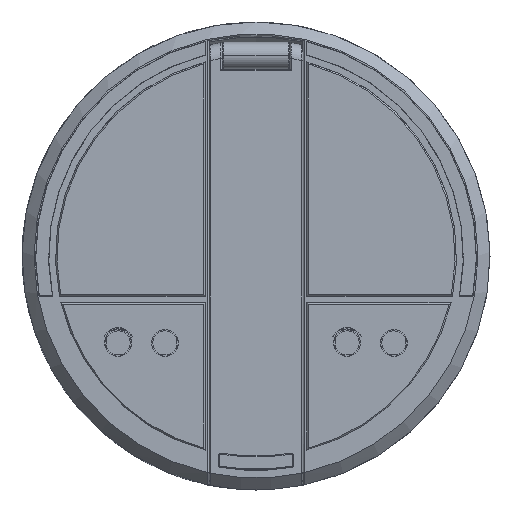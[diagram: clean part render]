
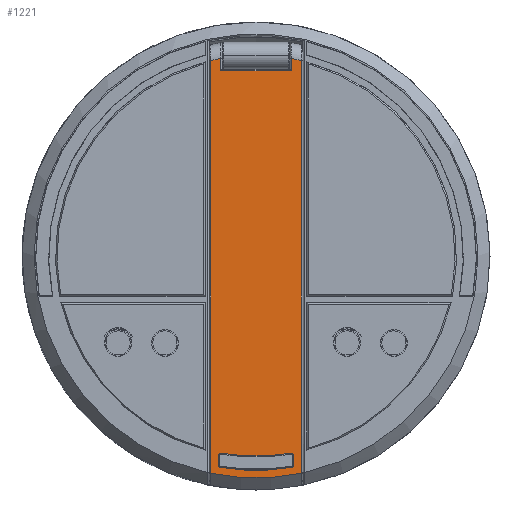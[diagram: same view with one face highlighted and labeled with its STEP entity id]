
A CAD part, front view. The second image highlights one B-rep face of the part: STEP entity #1221.
In plain terms, the highlighted planar face has unit normal (0, -1, 0).
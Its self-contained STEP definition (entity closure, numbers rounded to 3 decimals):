
#1221=ADVANCED_FACE('',(#2036,#2037),#1686,.T.);
#1686=PLANE('',#8995);
#2036=FACE_BOUND('',#2326,.T.);
#2037=FACE_BOUND('',#2327,.T.);
#2326=EDGE_LOOP('',(#3912,#3913,#3914,#3915,#3916,#3917,#3918,#3919));
#2327=EDGE_LOOP('',(#3920,#3921,#3922,#3923,#3924,#3925,#3926,#3927));
#2888=CIRCLE('',#8986,2.2);
#2889=CIRCLE('',#8987,2.2);
#2890=CIRCLE('',#8988,160.3);
#2891=CIRCLE('',#8989,2.2);
#2892=CIRCLE('',#8990,2.2);
#2893=CIRCLE('',#8991,149.7);
#2894=CIRCLE('',#8992,166.);
#2895=CIRCLE('',#8993,150.001);
#2896=CIRCLE('',#8994,150.001);
#3912=ORIENTED_EDGE('',*,*,#6637,.T.);
#3913=ORIENTED_EDGE('',*,*,#6638,.T.);
#3914=ORIENTED_EDGE('',*,*,#6639,.T.);
#3915=ORIENTED_EDGE('',*,*,#6640,.T.);
#3916=ORIENTED_EDGE('',*,*,#6641,.T.);
#3917=ORIENTED_EDGE('',*,*,#6642,.T.);
#3918=ORIENTED_EDGE('',*,*,#6643,.T.);
#3919=ORIENTED_EDGE('',*,*,#6644,.T.);
#3920=ORIENTED_EDGE('',*,*,#6645,.T.);
#3921=ORIENTED_EDGE('',*,*,#6646,.T.);
#3922=ORIENTED_EDGE('',*,*,#6647,.T.);
#3923=ORIENTED_EDGE('',*,*,#6648,.T.);
#3924=ORIENTED_EDGE('',*,*,#6649,.T.);
#3925=ORIENTED_EDGE('',*,*,#6650,.T.);
#3926=ORIENTED_EDGE('',*,*,#6651,.T.);
#3927=ORIENTED_EDGE('',*,*,#6652,.T.);
#5755=VERTEX_POINT('',#13514);
#5756=VERTEX_POINT('',#13515);
#5757=VERTEX_POINT('',#13517);
#5758=VERTEX_POINT('',#13519);
#5759=VERTEX_POINT('',#13521);
#5760=VERTEX_POINT('',#13523);
#5761=VERTEX_POINT('',#13525);
#5762=VERTEX_POINT('',#13527);
#5763=VERTEX_POINT('',#13530);
#5764=VERTEX_POINT('',#13531);
#5765=VERTEX_POINT('',#13533);
#5766=VERTEX_POINT('',#13535);
#5767=VERTEX_POINT('',#13537);
#5768=VERTEX_POINT('',#13539);
#5769=VERTEX_POINT('',#13541);
#5770=VERTEX_POINT('',#13543);
#6637=EDGE_CURVE('',#5755,#5756,#2888,.T.);
#6638=EDGE_CURVE('',#5756,#5757,#7639,.T.);
#6639=EDGE_CURVE('',#5757,#5758,#2889,.T.);
#6640=EDGE_CURVE('',#5758,#5759,#2890,.T.);
#6641=EDGE_CURVE('',#5759,#5760,#2891,.T.);
#6642=EDGE_CURVE('',#5760,#5761,#7640,.T.);
#6643=EDGE_CURVE('',#5761,#5762,#2892,.T.);
#6644=EDGE_CURVE('',#5762,#5755,#2893,.T.);
#6645=EDGE_CURVE('',#5763,#5764,#2894,.T.);
#6646=EDGE_CURVE('',#5764,#5765,#7641,.T.);
#6647=EDGE_CURVE('',#5765,#5766,#2895,.T.);
#6648=EDGE_CURVE('',#5766,#5767,#7642,.T.);
#6649=EDGE_CURVE('',#5767,#5768,#7643,.T.);
#6650=EDGE_CURVE('',#5768,#5769,#7644,.T.);
#6651=EDGE_CURVE('',#5769,#5770,#2896,.T.);
#6652=EDGE_CURVE('',#5770,#5763,#7645,.T.);
#7639=LINE('',#13516,#8306);
#7640=LINE('',#13524,#8307);
#7641=LINE('',#13532,#8308);
#7642=LINE('',#13536,#8309);
#7643=LINE('',#13538,#8310);
#7644=LINE('',#13540,#8311);
#7645=LINE('',#13544,#8312);
#8306=VECTOR('',#10427,1.);
#8307=VECTOR('',#10434,1.);
#8308=VECTOR('',#10441,1.);
#8309=VECTOR('',#10444,1.);
#8310=VECTOR('',#10445,1.);
#8311=VECTOR('',#10446,1.);
#8312=VECTOR('',#10449,1.);
#8986=AXIS2_PLACEMENT_3D('',#13513,#10425,#10426);
#8987=AXIS2_PLACEMENT_3D('',#13518,#10428,#10429);
#8988=AXIS2_PLACEMENT_3D('',#13520,#10430,#10431);
#8989=AXIS2_PLACEMENT_3D('',#13522,#10432,#10433);
#8990=AXIS2_PLACEMENT_3D('',#13526,#10435,#10436);
#8991=AXIS2_PLACEMENT_3D('',#13528,#10437,#10438);
#8992=AXIS2_PLACEMENT_3D('',#13529,#10439,#10440);
#8993=AXIS2_PLACEMENT_3D('',#13534,#10442,#10443);
#8994=AXIS2_PLACEMENT_3D('',#13542,#10447,#10448);
#8995=AXIS2_PLACEMENT_3D('',#13545,#10450,#10451);
#10425=DIRECTION('',(0.,1.,0.));
#10426=DIRECTION('',(0.,0.,-1.));
#10427=DIRECTION('',(0.,0.,-1.));
#10428=DIRECTION('',(0.,1.,0.));
#10429=DIRECTION('',(0.,0.,-1.));
#10430=DIRECTION('',(0.,1.,0.));
#10431=DIRECTION('',(0.,0.,-1.));
#10432=DIRECTION('',(0.,1.,0.));
#10433=DIRECTION('',(0.,0.,-1.));
#10434=DIRECTION('',(0.,0.,1.));
#10435=DIRECTION('',(0.,1.,0.));
#10436=DIRECTION('',(0.,0.,-1.));
#10437=DIRECTION('',(0.,-1.,0.));
#10438=DIRECTION('',(0.,0.,-1.));
#10439=DIRECTION('',(0.,-1.,0.));
#10440=DIRECTION('',(0.,0.,-1.));
#10441=DIRECTION('',(0.,0.,1.));
#10442=DIRECTION('',(0.,-1.,0.));
#10443=DIRECTION('',(0.,0.,-1.));
#10444=DIRECTION('',(0.,0.,-1.));
#10445=DIRECTION('',(-1.,0.,0.));
#10446=DIRECTION('',(0.,0.,1.));
#10447=DIRECTION('',(0.,-1.,0.));
#10448=DIRECTION('',(0.,0.,-1.));
#10449=DIRECTION('',(0.,0.,-1.));
#10450=DIRECTION('',(0.,-1.,0.));
#10451=DIRECTION('',(0.,0.,-1.));
#13513=CARTESIAN_POINT('',(26.,-2.5,-149.658));
#13514=CARTESIAN_POINT('',(25.623,-2.5,-147.491));
#13515=CARTESIAN_POINT('',(28.2,-2.5,-149.658));
#13516=CARTESIAN_POINT('',(28.2,-2.5,-155.947));
#13517=CARTESIAN_POINT('',(28.2,-2.5,-155.947));
#13518=CARTESIAN_POINT('',(26.,-2.5,-155.947));
#13519=CARTESIAN_POINT('',(26.362,-2.5,-158.118));
#13520=CARTESIAN_POINT('',(0.,-2.5,0.));
#13521=CARTESIAN_POINT('',(-26.362,-2.5,-158.118));
#13522=CARTESIAN_POINT('',(-26.,-2.5,-155.947));
#13523=CARTESIAN_POINT('',(-28.2,-2.5,-155.947));
#13524=CARTESIAN_POINT('',(-28.2,-2.5,-149.658));
#13525=CARTESIAN_POINT('',(-28.2,-2.5,-149.658));
#13526=CARTESIAN_POINT('',(-26.,-2.5,-149.658));
#13527=CARTESIAN_POINT('',(-25.623,-2.5,-147.491));
#13528=CARTESIAN_POINT('',(0.,-2.5,0.));
#13529=CARTESIAN_POINT('',(0.,-2.5,0.));
#13530=CARTESIAN_POINT('',(-33.9,-2.5,-162.502));
#13531=CARTESIAN_POINT('',(33.9,-2.5,-162.502));
#13532=CARTESIAN_POINT('',(33.9,-2.5,145.884));
#13533=CARTESIAN_POINT('',(33.9,-2.5,146.12));
#13534=CARTESIAN_POINT('',(0.,-2.5,0.));
#13535=CARTESIAN_POINT('',(26.5,-2.5,147.641));
#13536=CARTESIAN_POINT('',(26.5,-2.5,0.));
#13537=CARTESIAN_POINT('',(26.5,-2.5,138.5));
#13538=CARTESIAN_POINT('',(0.,-2.5,138.5));
#13539=CARTESIAN_POINT('',(-26.5,-2.5,138.5));
#13540=CARTESIAN_POINT('',(-26.5,-2.5,0.));
#13541=CARTESIAN_POINT('',(-26.5,-2.5,147.641));
#13542=CARTESIAN_POINT('',(0.,-2.5,0.));
#13543=CARTESIAN_POINT('',(-33.9,-2.5,146.12));
#13544=CARTESIAN_POINT('',(-33.9,-2.5,-162.29));
#13545=CARTESIAN_POINT('',(0.,-2.5,0.));
